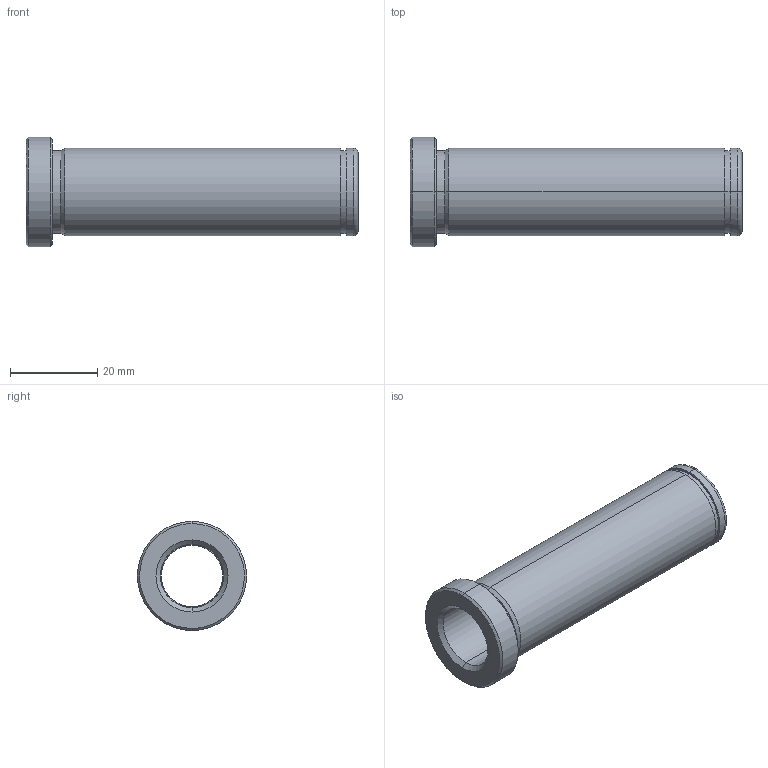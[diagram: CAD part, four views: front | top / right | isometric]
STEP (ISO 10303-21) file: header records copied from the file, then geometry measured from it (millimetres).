
FILE_DESCRIPTION(('CATIA V5 STEP Exchange'),'2;1');
FILE_NAME('C:\Users\Utente\Desktop\IO LAVORO\3D X SITO CF\X SITO\PLASTICA\553\553-14X76.stp','2021-05-21T18:22:29+00:00',('none'),('none'),'CATIA Version 5 Release 20 GA (IN-10)','CATIA V5 STEP AP203','none');
FILE_SCHEMA(('CONFIG_CONTROL_DESIGN'));
Length unit declared in the file: millimetre
Products named in the file (1): 553-14x76
Bounding box: 76 x 25 x 25 mm (x, y, z)
Volume: 12708.2 mm3; surface area: 8894.7 mm2
Topology: 1 solids, 1 shells, 32 faces, 102 edges, 76 vertices
Faces by surface type: cylinder 14, cone 8, plane 6, torus 4
Entity records: 1334 total; most frequent: CARTESIAN_POINT 389, ORIENTED_EDGE 204, DIRECTION 152, EDGE_CURVE 102, AXIS2_PLACEMENT_3D 99, VERTEX_POINT 76, CIRCLE 66, EDGE_LOOP 38
